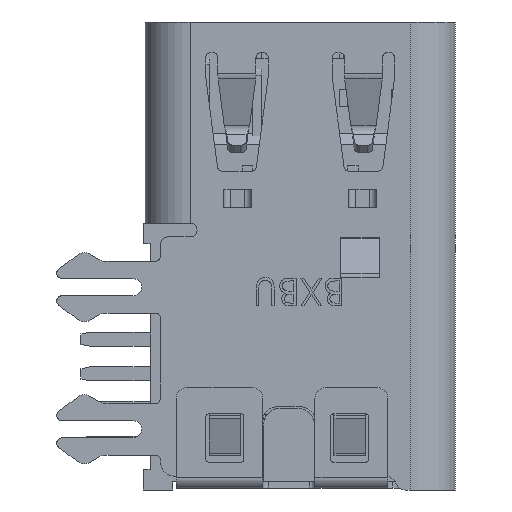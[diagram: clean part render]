
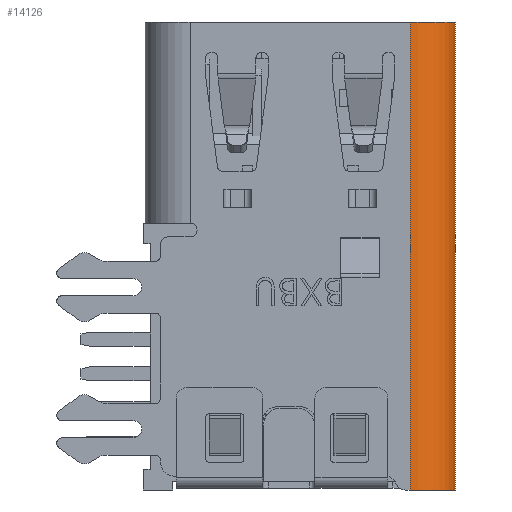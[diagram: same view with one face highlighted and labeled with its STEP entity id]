
A CAD part, front view. The second image highlights one B-rep face of the part: STEP entity #14126.
In plain terms, the highlighted cylindrical face has radius 1.3 mm (diameter 2.6 mm), a partial arc.
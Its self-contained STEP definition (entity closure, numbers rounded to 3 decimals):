
#165 = CIRCLE ( 'NONE', #13162, 1.3 ) ;
#686 = DIRECTION ( 'NONE',  ( 0., 0., 1. ) ) ;
#946 = DIRECTION ( 'NONE',  ( 1., 0., 0. ) ) ;
#1593 = FACE_OUTER_BOUND ( 'NONE', #2634, .T. ) ;
#1932 = EDGE_CURVE ( 'NONE', #7674, #24372, #28710, .T. ) ;
#2634 = EDGE_LOOP ( 'NONE', ( #9933, #5220, #28303, #25344 ) ) ;
#3376 = EDGE_CURVE ( 'NONE', #13934, #5909, #165, .T. ) ;
#3462 = LINE ( 'NONE', #14738, #3474 ) ;
#3474 = VECTOR ( 'NONE', #686, 1000. ) ;
#5220 = ORIENTED_EDGE ( 'NONE', *, *, #16249, .F. ) ;
#5909 = VERTEX_POINT ( 'NONE', #33417 ) ;
#7098 = DIRECTION ( 'NONE',  ( 0., -1., 0. ) ) ;
#7536 = AXIS2_PLACEMENT_3D ( 'NONE', #24162, #35623, #21389 ) ;
#7674 = VERTEX_POINT ( 'NONE', #20019 ) ;
#9016 = CARTESIAN_POINT ( 'NONE',  ( 7.72, 0.045, -13.1 ) ) ;
#9905 = EDGE_CURVE ( 'NONE', #24372, #13934, #29505, .T. ) ;
#9933 = ORIENTED_EDGE ( 'NONE', *, *, #3376, .T. ) ;
#10275 = CYLINDRICAL_SURFACE ( 'NONE', #7536, 1.3 ) ;
#11751 = VECTOR ( 'NONE', #18227, 1000. ) ;
#12810 = CARTESIAN_POINT ( 'NONE',  ( 6.42, 0.045, -13.1 ) ) ;
#13162 = AXIS2_PLACEMENT_3D ( 'NONE', #17046, #33872, #946 ) ;
#13934 = VERTEX_POINT ( 'NONE', #31386 ) ;
#14126 = ADVANCED_FACE ( 'NONE', ( #1593 ), #10275, .T. ) ;
#14738 = CARTESIAN_POINT ( 'NONE',  ( 6.42, -1.255, -13.1 ) ) ;
#15085 = CARTESIAN_POINT ( 'NONE',  ( 7.72, 0.045, -13.1 ) ) ;
#16249 = EDGE_CURVE ( 'NONE', #7674, #5909, #3462, .T. ) ;
#17046 = CARTESIAN_POINT ( 'NONE',  ( 6.42, 0.045, 0.4 ) ) ;
#18065 = AXIS2_PLACEMENT_3D ( 'NONE', #12810, #24104, #7098 ) ;
#18227 = DIRECTION ( 'NONE',  ( 0., 0., 1. ) ) ;
#20019 = CARTESIAN_POINT ( 'NONE',  ( 6.42, -1.255, -13.1 ) ) ;
#21389 = DIRECTION ( 'NONE',  ( 1., 0., 0. ) ) ;
#24104 = DIRECTION ( 'NONE',  ( 0., 0., 1. ) ) ;
#24162 = CARTESIAN_POINT ( 'NONE',  ( 6.42, 0.045, -4.73 ) ) ;
#24372 = VERTEX_POINT ( 'NONE', #9016 ) ;
#25344 = ORIENTED_EDGE ( 'NONE', *, *, #9905, .T. ) ;
#28303 = ORIENTED_EDGE ( 'NONE', *, *, #1932, .T. ) ;
#28710 = CIRCLE ( 'NONE', #18065, 1.3 ) ;
#29505 = LINE ( 'NONE', #15085, #11751 ) ;
#31386 = CARTESIAN_POINT ( 'NONE',  ( 7.72, 0.045, 0.4 ) ) ;
#33417 = CARTESIAN_POINT ( 'NONE',  ( 6.42, -1.255, 0.4 ) ) ;
#33872 = DIRECTION ( 'NONE',  ( 0., 0., -1. ) ) ;
#35623 = DIRECTION ( 'NONE',  ( 0., 0., -1. ) ) ;
